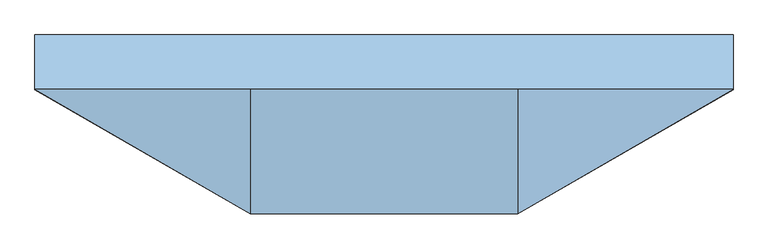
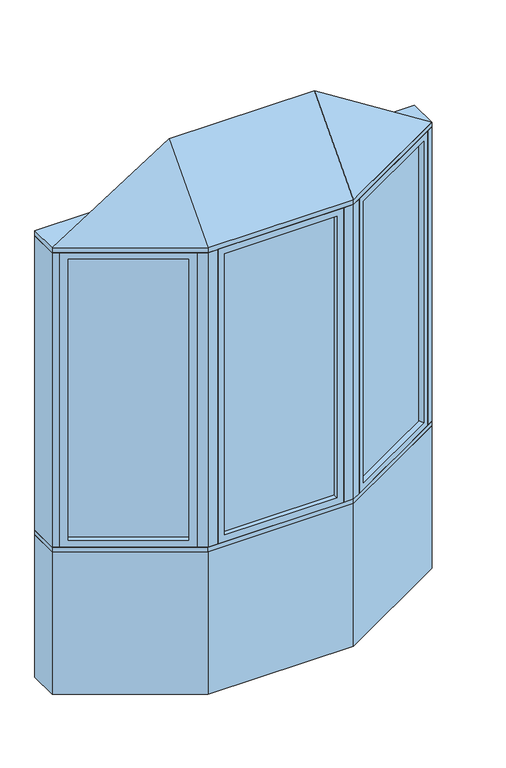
"""IFC4 building model written with IfcOpenShell, lengths in millimetres: window geometry, Pollard_Windows_Tudor Casement Bows and Bays : AML-BAY 30 AFR0616-08-600."""

import ifcopenshell
import ifcopenshell.guid

model = None  # the IFC model being written
_history = None  # IfcOwnerHistory: only IFC2X3 demands one
_inside = {}  # id of a spatial element -> (the spatial element, [elements in it])
_under = {}  # id of a project, library or spatial element -> (it, [spatial elements below it])
_declared = {}  # id of a project -> (the project, [libraries it declares])
_typed = {}  # id of a type object -> (the type object, [elements of that type])
_made_of = {}  # id of a material, layer set ... -> (it, [elements and type objects made of it])


def new_model(schema):
    """Start an empty IFC model of exactly this schema.

    Asked for "IFC4X3", IfcOpenShell would pick the latest addendum, in which some entities
    have other attributes; the version numbers below select the first issue.
    IFC2X3 requires an IfcOwnerHistory on every rooted entity: one is made here for all.
    """
    global model, _history
    if schema == "IFC4X3":
        model = ifcopenshell.file(schema_version=(4, 3, 0, 0))
    else:
        model = ifcopenshell.file(schema=schema)
    _inside.clear()
    _under.clear()
    _declared.clear()
    _typed.clear()
    _made_of.clear()
    _history = None
    if model.schema == "IFC2X3":
        org = make("IfcOrganization", Name="unknown")
        user = make(
            "IfcPersonAndOrganization",
            ThePerson=make("IfcPerson", FamilyName="unknown"),
            TheOrganization=org,
        )
        app = make(
            "IfcApplication",
            ApplicationDeveloper=org,
            Version="unknown",
            ApplicationFullName="unknown",
            ApplicationIdentifier="unknown",
        )
        _history = make(
            "IfcOwnerHistory",
            OwningUser=user,
            OwningApplication=app,
            ChangeAction="ADDED",
            CreationDate=0,
        )
    return model


def make(cls, **values):
    """One entity of the class cls with the attributes given. An attribute that is None is left unset."""
    return model.create_entity(
        cls, **{name: value for name, value in values.items() if value is not None}
    )


def rooted(cls, **values):
    """An entity with a GlobalId (a new one), such as an element, a storey or a relation."""
    return make(cls, GlobalId=ifcopenshell.guid.new(), OwnerHistory=_history, **values)


def si_unit(unit_type, name, prefix=None):
    """IfcSIUnit, for example si_unit("LENGTHUNIT", "METRE", prefix="MILLI")."""
    return make("IfcSIUnit", UnitType=unit_type, Prefix=prefix, Name=name)


def assignment(units):
    """IfcUnitAssignment: the units of a project."""
    return None if units is None else make("IfcUnitAssignment", Units=units)


def point(xyz):
    """IfcCartesianPoint."""
    return None if xyz is None else make("IfcCartesianPoint", Coordinates=xyz)


def direction(xyz):
    """IfcDirection."""
    return None if xyz is None else make("IfcDirection", DirectionRatios=xyz)


def frame(location, z_axis=None, x_axis=None):
    """IfcAxis2Placement3D, a coordinate frame: its origin and axes. An axis left out is left unset."""
    return make(
        "IfcAxis2Placement3D",
        Location=point(location),
        Axis=direction(z_axis),
        RefDirection=direction(x_axis),
    )


def origin():
    """The frame at (0, 0, 0) with its axes left unset."""
    return frame((0.0, 0.0, 0.0))


def origin_with_axes():
    """The frame at (0, 0, 0) with the z axis (0, 0, 1) and the x axis (1, 0, 0) written out."""
    return frame((0.0, 0.0, 0.0), z_axis=(0.0, 0.0, 1.0), x_axis=(1.0, 0.0, 0.0))


def place(relative_to, where):
    """IfcLocalPlacement: puts the frame where relative to a parent placement (None: the world)."""
    return make(
        "IfcLocalPlacement", PlacementRelTo=relative_to, RelativePlacement=where
    )


def context(
    kind, dimensions, precision=None, world=None, true_north=None, identifier=None
):
    """IfcGeometricRepresentationContext, for example the 3D "Model" context."""
    return make(
        "IfcGeometricRepresentationContext",
        ContextIdentifier=identifier,
        ContextType=kind,
        CoordinateSpaceDimension=dimensions,
        Precision=precision,
        WorldCoordinateSystem=world,
        TrueNorth=true_north,
    )


def project(units=None, contexts=None):
    """IfcProject with its units and contexts."""
    return rooted(
        "IfcProject",
        Name="project",
        RepresentationContexts=contexts,
        UnitsInContext=assignment(units),
    )


def spatial(cls, under=None, at=None, **own):
    """A site, building, storey or space (cls), placed at a placement, below another one or the project."""
    s = rooted(cls, ObjectPlacement=at, **own)
    if under is not None:
        _under.setdefault(under.id(), (under, []))[1].append(s)
    return s


def polyline(points):
    """IfcPolyline through the points."""
    return make("IfcPolyline", Points=[point(p) for p in points])


def outline(outer, holes=None, kind="AREA"):
    """IfcArbitraryClosedProfileDef: a profile drawn as a closed curve; with holes, ...WithVoids."""
    if holes is None:
        return make("IfcArbitraryClosedProfileDef", ProfileType=kind, OuterCurve=outer)
    return make(
        "IfcArbitraryProfileDefWithVoids",
        ProfileType=kind,
        OuterCurve=outer,
        InnerCurves=holes,
    )


def extrude(swept, where, along, depth):
    """IfcExtrudedAreaSolid: the profile swept, set in the frame where, extruded along a direction by depth."""
    return make(
        "IfcExtrudedAreaSolid",
        SweptArea=swept,
        Position=where,
        ExtrudedDirection=direction(along),
        Depth=depth,
    )


def faces_of(points, faces, orient=None, outer=None):
    """IfcFace entities. A face is a list of loops; a loop is a list of indices into points, from 0.

    orient and outer hold one flag for each loop. By default every Orientation is true, the
    first loop of a face is its IfcFaceOuterBound and the others are IfcFaceBound.
    """
    made = []
    for i, loops in enumerate(faces):
        bounds = []
        for j, loop in enumerate(loops):
            is_outer = j == 0 if outer is None else outer[i][j]
            bounds.append(
                make(
                    "IfcFaceOuterBound" if is_outer else "IfcFaceBound",
                    Bound=make("IfcPolyLoop", Polygon=[points[k] for k in loop]),
                    Orientation=True if orient is None else orient[i][j],
                )
            )
        made.append(make("IfcFace", Bounds=bounds))
    return made


def faceted_brep(points, faces, orient=None, outer=None, voids=None):
    """IfcFacetedBrep: a solid bounded by flat faces; with voids (closed shells), ...WithVoids."""
    shared = [point(p) for p in points]
    hull = make("IfcClosedShell", CfsFaces=faces_of(shared, faces, orient, outer))
    if voids is None:
        return make("IfcFacetedBrep", Outer=hull)
    return make(
        "IfcFacetedBrepWithVoids",
        Outer=hull,
        Voids=[
            make(cls, CfsFaces=faces_of(shared, fs, o, b)) for cls, fs, o, b in voids
        ],
    )


def shape(context_of_items, identifier, shape_type, items):
    """IfcShapeRepresentation: the items that make up one representation, for example the "Body"."""
    return make(
        "IfcShapeRepresentation",
        ContextOfItems=context_of_items,
        RepresentationIdentifier=identifier,
        RepresentationType=shape_type,
        Items=items,
    )


def source(mapping_origin, context_of_items, identifier, shape_type, items):
    """IfcRepresentationMap: a shape defined once, which mapped items show again and again."""
    return make(
        "IfcRepresentationMap",
        MappingOrigin=mapping_origin,
        MappedRepresentation=shape(context_of_items, identifier, shape_type, items),
    )


def transform(
    local_origin,
    x_axis=None,
    y_axis=None,
    z_axis=None,
    scale=None,
    scale2=None,
    scale3=None,
    uniform=True,
):
    """IfcCartesianTransformationOperator3D, or its non-uniform kind. x_axis, y_axis, z_axis: its Axis1, 2, 3."""
    if uniform:
        return make(
            "IfcCartesianTransformationOperator3D",
            Axis1=direction(x_axis),
            Axis2=direction(y_axis),
            LocalOrigin=point(local_origin),
            Scale=scale,
            Axis3=direction(z_axis),
        )
    return make(
        "IfcCartesianTransformationOperator3DnonUniform",
        Axis1=direction(x_axis),
        Axis2=direction(y_axis),
        LocalOrigin=point(local_origin),
        Scale=scale,
        Axis3=direction(z_axis),
        Scale2=scale2,
        Scale3=scale3,
    )


def mapped(mapping_source, mapping_target):
    """IfcMappedItem: shows the shape of a source again, moved by a transform."""
    return make(
        "IfcMappedItem", MappingSource=mapping_source, MappingTarget=mapping_target
    )


def made_of(thing, what):
    """Note that an element or type object is made of a material, layer set ...; save() writes the relation."""
    if what is not None:
        _made_of.setdefault(what.id(), (what, []))[1].append(thing)
    return thing


def element(
    cls,
    number,
    at=None,
    inside=None,
    cuts=None,
    type_object=None,
    material=None,
    context=None,
    identifier="Body",
    shape_type=None,
    held_by="IfcProductDefinitionShape",
    body=None,
    shapes=None,
    **own,
):
    """One element of the class cls, such as IfcWall. Its Tag is "e" and its number.

    at: its placement. inside: the storey or other place that contains it. cuts: it is an
    opening in that element (IfcRelVoidsElement). A single representation is given by context,
    identifier, shape_type and body (its items); several are given by shapes. held_by: the class
    of the entity that holds the representations. save() writes the other relations.
    """
    e = rooted(cls, Tag="e%d" % number, ObjectPlacement=at, **own)
    if body is not None:
        shapes = [shape(context, identifier, shape_type, body)]
    if shapes is not None:
        e.Representation = make(held_by, Representations=shapes)
    if inside is not None:
        _inside.setdefault(inside.id(), (inside, []))[1].append(e)
    if cuts is not None:
        rooted(
            "IfcRelVoidsElement", RelatingBuildingElement=cuts, RelatedOpeningElement=e
        )
    if type_object is not None:
        _typed.setdefault(type_object.id(), (type_object, []))[1].append(e)
    return made_of(e, material)


def aggregate(whole, parts):
    """IfcRelAggregates: a whole, such as a stair, and the parts it consists of."""
    return rooted("IfcRelAggregates", RelatingObject=whole, RelatedObjects=parts)


def save(model, path):
    """Write the relations noted so far, then the file.

    IfcRelAggregates (storeys below a building ...), IfcRelContainedInSpatialStructure (elements
    in a storey), IfcRelDefinesByType, IfcRelAssociatesMaterial and IfcRelDeclares: one each for
    every whole, place, type object, material and project.
    """
    for whole, parts in _under.values():
        aggregate(whole, parts)
    for where, things in _inside.values():
        rooted(
            "IfcRelContainedInSpatialStructure",
            RelatedElements=things,
            RelatingStructure=where,
        )
    for kind, things in _typed.values():
        rooted("IfcRelDefinesByType", RelatedObjects=things, RelatingType=kind)
    for what, things in _made_of.values():
        rooted("IfcRelAssociatesMaterial", RelatedObjects=things, RelatingMaterial=what)
    for by, libraries in _declared.values():
        rooted("IfcRelDeclares", RelatingContext=by, RelatedDefinitions=libraries)
    model.write(path)


def window_f1942e76(model_context):
    return source(origin(), model_context, "Body", "SolidModel", [
        extrude(outline(polyline([(913.112102, -82.0482469), (424.8834764, -363.9271754), (422.3434764, -359.5277664), (910.572102, -77.6488379), (913.112102, -82.0482469)])), frame((0.0, 0.0, 823.1628), z_axis=(0.0, 0.0, 1.0), x_axis=(1.0, 0.0, 0.0)), (0.0, 0.0, 1.0), 1553.6704),
        faceted_brep([(902.1135794, -88.3982469, 835.8628), (914.8135794, -110.3952922, 835.8628), (914.8135794, -110.3952922, 2364.1332), (902.1135794, -88.3982469, 2364.1332), (910.572102, -77.6488379, 823.1628), (913.112102, -82.0482469, 823.1628), (913.112102, -82.0482469, 2376.8332), (910.572102, -77.6488379, 2376.8332), (886.8735794, -62.0017926, 835.8628), (899.5735794, -83.9988379, 835.8628), (899.5735794, -83.9988379, 2364.1332), (886.8735794, -62.0017926, 2364.1332), (945.8734073, -92.4628922, 799.998), (917.9334073, -44.0693926, 799.998), (917.9334073, -44.0693926, 2399.998), (945.8734073, -92.4628922, 2399.998), (448.581999, -379.5742207, 2364.1332), (435.881999, -357.5771754, 2364.1332), (424.8834764, -363.9271754, 2376.8332), (422.3434764, -359.5277664, 2376.8332), (433.341999, -353.1777664, 2364.1332), (420.641999, -331.1807211, 2364.1332), (389.5821711, -349.1131211, 2399.998), (417.5221711, -397.5066207, 2399.998), (448.581999, -379.5742207, 835.8628), (435.881999, -357.5771754, 835.8628), (424.8834764, -363.9271754, 823.1628), (422.3434764, -359.5277664, 823.1628), (433.341999, -353.1777664, 835.8628), (420.641999, -331.1807211, 835.8628), (389.5821711, -349.1131211, 799.998), (417.5221711, -397.5066207, 799.998)], [[[0, 1, 2, 3]], [[4, 5, 6, 7]], [[8, 9, 10, 11]], [[12, 13, 14, 15]], [[3, 2, 16, 17]], [[7, 6, 18, 19]], [[11, 10, 20, 21]], [[15, 14, 22, 23]], [[17, 16, 24, 25]], [[19, 18, 26, 27]], [[21, 20, 28, 29]], [[23, 22, 30, 31]], [[25, 24, 1, 0]], [[5, 26, 18, 6], [3, 17, 25, 0]], [[27, 26, 5, 4]], [[7, 19, 27, 4], [9, 28, 20, 10]], [[29, 28, 9, 8]], [[13, 30, 22, 14], [11, 21, 29, 8]], [[31, 30, 13, 12]], [[15, 23, 31, 12], [1, 24, 16, 2]]]),
        extrude(outline(polyline([(-424.8834764, -363.9271754), (-913.112102, -82.0482469), (-910.572102, -77.6488379), (-422.3434764, -359.5277664), (-424.8834764, -363.9271754)])), frame((0.0, 0.0, 823.1628), z_axis=(0.0, 0.0, 1.0), x_axis=(1.0, 0.0, 0.0)), (0.0, 0.0, 1.0), 1553.6704),
        faceted_brep([(-433.341999, -353.1777664, 2364.1332), (-420.641999, -331.1807211, 2364.1332), (-420.641999, -331.1807211, 835.8628), (-433.341999, -353.1777664, 835.8628), (-424.8834764, -363.9271754, 2376.8332), (-422.3434764, -359.5277664, 2376.8332), (-422.3434764, -359.5277664, 823.1628), (-424.8834764, -363.9271754, 823.1628), (-448.581999, -379.5742207, 2364.1332), (-435.881999, -357.5771754, 2364.1332), (-435.881999, -357.5771754, 835.8628), (-448.581999, -379.5742207, 835.8628), (-389.5821711, -349.1131211, 2399.998), (-417.5221711, -397.5066207, 2399.998), (-417.5221711, -397.5066207, 799.998), (-389.5821711, -349.1131211, 799.998), (-886.8735794, -62.0017926, 835.8628), (-899.5735794, -83.9988379, 835.8628), (-910.572102, -77.6488379, 823.1628), (-913.112102, -82.0482469, 823.1628), (-902.1135794, -88.3982469, 835.8628), (-914.8135794, -110.3952922, 835.8628), (-945.8734073, -92.4628922, 799.998), (-917.9334073, -44.0693926, 799.998), (-886.8735794, -62.0017926, 2364.1332), (-899.5735794, -83.9988379, 2364.1332), (-910.572102, -77.6488379, 2376.8332), (-913.112102, -82.0482469, 2376.8332), (-902.1135794, -88.3982469, 2364.1332), (-914.8135794, -110.3952922, 2364.1332), (-945.8734073, -92.4628922, 2399.998), (-917.9334073, -44.0693926, 2399.998)], [[[0, 1, 2, 3]], [[4, 5, 6, 7]], [[8, 9, 10, 11]], [[12, 13, 14, 15]], [[3, 2, 16, 17]], [[7, 6, 18, 19]], [[11, 10, 20, 21]], [[15, 14, 22, 23]], [[17, 16, 24, 25]], [[19, 18, 26, 27]], [[21, 20, 28, 29]], [[23, 22, 30, 31]], [[15, 23, 31, 12], [1, 24, 16, 2]], [[25, 24, 1, 0]], [[5, 26, 18, 6], [3, 17, 25, 0]], [[27, 26, 5, 4]], [[7, 19, 27, 4], [9, 28, 20, 10]], [[29, 28, 9, 8]], [[13, 30, 22, 14], [11, 21, 29, 8]], [[31, 30, 13, 12]]]),
        extrude(outline(polyline([(301.0561009, -397.1066207), (-301.0561009, -397.1066207), (-301.0561009, -392.0266207), (301.0561009, -392.0266207), (301.0561009, -397.1066207)])), frame((0.0, 0.0, 823.1628), z_axis=(0.0, 0.0, 1.0), x_axis=(1.0, 0.0, 0.0)), (0.0, 0.0, 1.0), 1553.6704),
        faceted_brep([(288.3561009, -397.1066207, 835.8628), (288.3561009, -422.5066207, 835.8628), (288.3561009, -422.5066207, 2364.1332), (288.3561009, -397.1066207, 2364.1332), (301.0561009, -392.0266207, 823.1628), (301.0561009, -397.1066207, 823.1628), (301.0561009, -397.1066207, 2376.8332), (301.0561009, -392.0266207, 2376.8332), (288.3561009, -366.6266207, 835.8628), (288.3561009, -392.0266207, 835.8628), (288.3561009, -392.0266207, 2364.1332), (288.3561009, -366.6266207, 2364.1332), (324.2209009, -422.5066207, 799.998), (324.2209009, -366.6266207, 799.998), (324.2209009, -366.6266207, 2399.998), (324.2209009, -422.5066207, 2399.998), (-288.3561009, -422.5066207, 2364.1332), (-288.3561009, -397.1066207, 2364.1332), (-301.0561009, -397.1066207, 2376.8332), (-301.0561009, -392.0266207, 2376.8332), (-288.3561009, -392.0266207, 2364.1332), (-288.3561009, -366.6266207, 2364.1332), (-324.2209009, -366.6266207, 2399.998), (-324.2209009, -422.5066207, 2399.998), (-288.3561009, -422.5066207, 835.8628), (-288.3561009, -397.1066207, 835.8628), (-301.0561009, -397.1066207, 823.1628), (-301.0561009, -392.0266207, 823.1628), (-288.3561009, -392.0266207, 835.8628), (-288.3561009, -366.6266207, 835.8628), (-324.2209009, -366.6266207, 799.998), (-324.2209009, -422.5066207, 799.998)], [[[0, 1, 2, 3]], [[4, 5, 6, 7]], [[8, 9, 10, 11]], [[12, 13, 14, 15]], [[3, 2, 16, 17]], [[7, 6, 18, 19]], [[11, 10, 20, 21]], [[15, 14, 22, 23]], [[17, 16, 24, 25]], [[19, 18, 26, 27]], [[21, 20, 28, 29]], [[23, 22, 30, 31]], [[15, 23, 31, 12], [1, 24, 16, 2]], [[25, 24, 1, 0]], [[5, 26, 18, 6], [3, 17, 25, 0]], [[27, 26, 5, 4]], [[7, 19, 27, 4], [9, 28, 20, 10]], [[29, 28, 9, 8]], [[13, 30, 22, 14], [11, 21, 29, 8]], [[31, 30, 13, 12]]]),
        faceted_brep([(976.5, -74.7806207, 2425.398), (374.2209009, -422.5066207, 2425.398), (-374.2209009, -422.5066207, 2425.398), (-976.5, -74.7806207, 2425.398), (-374.2209009, -74.7806207, 2806.398), (374.2209009, -74.7806207, 2806.398)], [[[0, 1, 2, 3]], [[3, 2, 4]], [[2, 1, 5, 4]], [[1, 0, 5]], [[0, 3, 4, 5]]]),
        extrude(outline(polyline([(-976.5, 77.6193793), (976.5, 77.6193793), (976.5, -74.7806207), (374.2209009, -422.5066207), (-374.2209009, -422.5066207), (-976.5, -74.7806207), (-976.5, 77.6193793)])), frame((0.0, 0.0, 2399.998), z_axis=(0.0, 0.0, 1.0), x_axis=(1.0, 0.0, 0.0)), (0.0, 0.0, 1.0), 25.4),
        extrude(outline(polyline([(-976.5, -74.7806207), (-976.5, 77.6193793), (-935.6645431, 77.6193793), (-935.6645431, -74.7806207), (-945.8734073, -92.4628922), (-976.5, -74.7806207)])), frame((0.0, 0.0, 799.998), z_axis=(0.0, 0.0, 1.0), x_axis=(1.0, 0.0, 0.0)), (0.0, 0.0, 1.0), 1600.0),
        extrude(outline(polyline([(976.5, 77.6193793), (976.5, -74.7806207), (945.8734073, -92.4628922), (935.6645431, -74.7806207), (935.6645431, 77.6193793), (976.5, 77.6193793)])), frame((0.0, 0.0, 799.998), z_axis=(0.0, 0.0, 1.0), x_axis=(1.0, 0.0, 0.0)), (0.0, 0.0, 1.0), 1600.0),
        extrude(outline(polyline([(374.2209009, -422.5066207), (324.2209009, -422.5066207), (324.2209009, -372.5066207), (360.8234413, -372.5066207), (392.5221711, -354.2053505), (417.5221711, -397.5066207), (374.2209009, -422.5066207)])), frame((0.0, 0.0, 799.998), z_axis=(0.0, 0.0, 1.0), x_axis=(1.0, 0.0, 0.0)), (0.0, 0.0, 1.0), 1600.0),
        extrude(outline(polyline([(-374.2209009, -422.5066207), (-417.5221711, -397.5066207), (-392.5221711, -354.2053505), (-360.8234413, -372.5066207), (-324.2209009, -372.5066207), (-324.2209009, -422.5066207), (-374.2209009, -422.5066207)])), frame((0.0, 0.0, 799.998), z_axis=(0.0, 0.0, 1.0), x_axis=(1.0, 0.0, 0.0)), (0.0, 0.0, 1.0), 1600.0),
        extrude(outline(polyline([(-374.2209009, -422.5066207), (-976.5, -74.7806207), (-976.5, 77.6193793), (-935.6645431, 77.6193793), (-333.385444, -270.1066207), (333.385444, -270.1066207), (935.6645431, 77.6193793), (976.5, 77.6193793), (976.5, -74.7806207), (374.2209009, -422.5066207), (-374.2209009, -422.5066207)])), frame((0.0, 0.0, 774.598), z_axis=(0.0, 0.0, 1.0), x_axis=(1.0, 0.0, 0.0)), (0.0, 0.0, 1.0), 25.4),
        extrude(outline(polyline([(-976.5, -74.7806207), (-976.5, 77.6193793), (-935.6645431, 77.6193793), (-333.385444, -270.1066207), (333.385444, -270.1066207), (935.6645431, 77.6193793), (976.5, 77.6193793), (976.5, -74.7806207), (374.2209009, -422.5066207), (-374.2209009, -422.5066207), (-976.5, -74.7806207)])), origin_with_axes(), (0.0, 0.0, 1.0), 774.598),
    ])


if __name__ == "__main__":
    model = new_model("IFC4")
    model_context = context("Model", 3, world=origin())
    ifc_project = project(units=[si_unit("LENGTHUNIT", "METRE", prefix="MILLI")], contexts=[model_context])
    site = spatial("IfcSite", under=ifc_project)
    building = spatial("IfcBuilding", under=site)
    placement = place(None, origin())
    window_shape = window_f1942e76(model_context)
    element("IfcWindow", 1, ObjectType="Pollard_Windows_Tudor Casement Bows and Bays : AML-BAY 30 AFR0616-08-600", at=placement, inside=building, context=model_context, shape_type="MappedRepresentation", body=[
        mapped(window_shape, transform((0.0, 0.0, 0.0), x_axis=(1.0, 0.0, 0.0), y_axis=(0.0, 1.0, 0.0), z_axis=(0.0, 0.0, 1.0))),
    ])
    save(model, "model.ifc")
